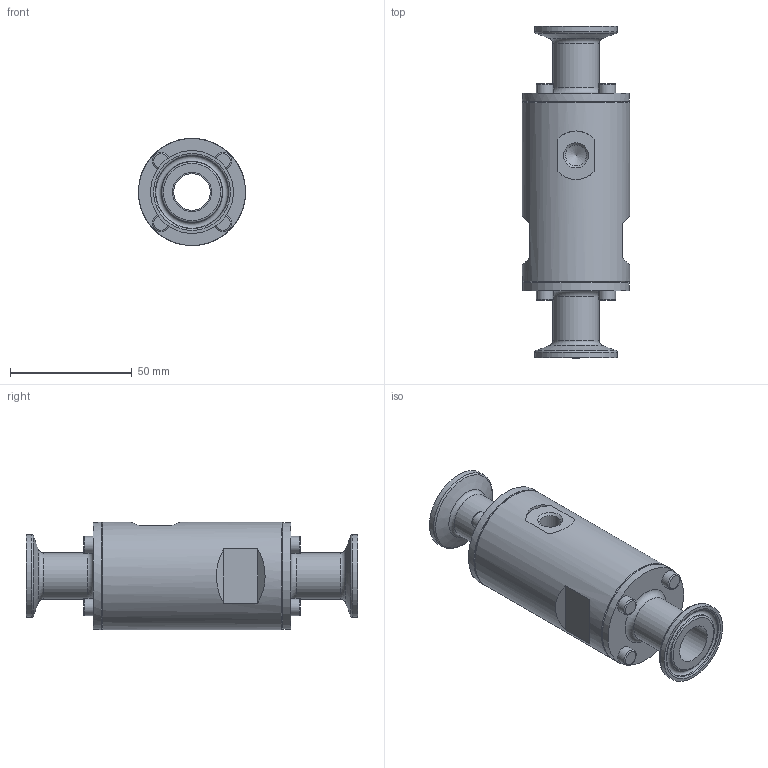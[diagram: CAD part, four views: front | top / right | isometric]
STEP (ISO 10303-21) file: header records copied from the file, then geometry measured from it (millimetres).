
FILE_DESCRIPTION(/* description */ (''),/* implementation_level */ '2;1');
FILE_NAME(/* name */ '88015.stp',/* time_stamp */ '2019-06-10T07:03:02+02:00',/* author */ (''),/* organization */ (''),/* preprocessor_version */ 'ST-DEVELOPER v16.7',/* originating_system */ 'SIEMENS PLM Software NX 12.0',/* authorisation */ '');
FILE_SCHEMA (('AUTOMOTIVE_DESIGN { 1 0 10303 214 3 1 1 1 }'));
Length unit declared in the file: millimetre
Products named in the file (1): Memd21BC7DCDv7z1
Bounding box: 44 x 136.2 x 44 mm (x, y, z)
Volume: 116317.7 mm3; surface area: 27928.9 mm2
Topology: 1 solids, 3 shells, 88 faces, 181 edges, 115 vertices
Faces by surface type: plane 27, cylinder 25, torus 24, cone 12
Full cylindrical faces by diameter (mm): 7 x8, 8.611 x1, 15 x1, 16 x2, 19 x2, 34 x2, 41 x2, 41.2 x2, 44 x3
Entity records: 1876 total; most frequent: DIRECTION 358, CARTESIAN_POINT 296, ORIENTED_EDGE 194, AXIS2_PLACEMENT_3D 174, EDGE_LOOP 170, FACE_BOUND 155, EDGE_CURVE 97, VERTEX_POINT 92
